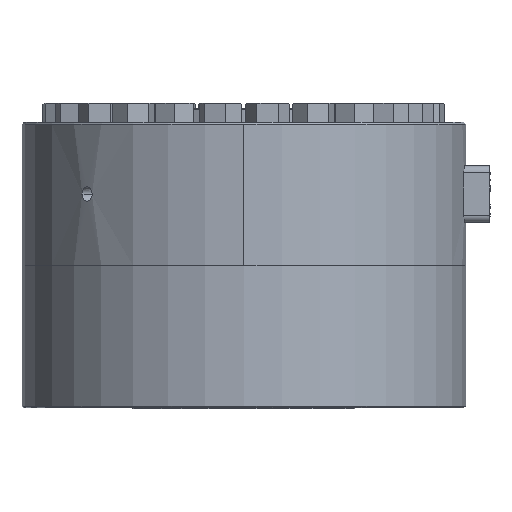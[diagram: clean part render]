
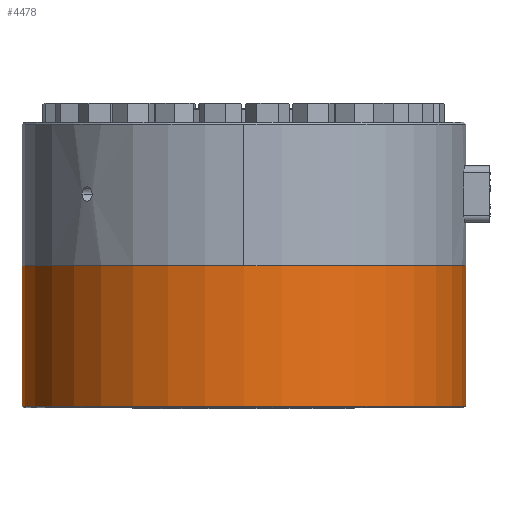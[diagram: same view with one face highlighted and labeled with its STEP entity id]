
A CAD part, front view. The second image highlights one B-rep face of the part: STEP entity #4478.
In plain terms, the highlighted cylindrical face has radius 196.85 mm (diameter 393.7 mm), a partial arc.
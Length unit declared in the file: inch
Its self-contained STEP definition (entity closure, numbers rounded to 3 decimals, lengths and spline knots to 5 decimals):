
#3 = ORIENTED_EDGE ( 'NONE', *, *, #17368, .F. ) ;
#17353 = FACE_OUTER_BOUND ( 'NONE', #4197, .T. ) ;
#990 = VERTEX_POINT ( 'NONE', #14817 ) ;
#17368 = EDGE_CURVE ( 'NONE', #990, #14374, #12063, .T. ) ;
#17369 = CYLINDRICAL_SURFACE ( 'NONE', #17370, 7.75 ) ;
#17370 = AXIS2_PLACEMENT_3D ( 'NONE', #17371, #17372, #17373 ) ;
#17371 = CARTESIAN_POINT ( 'NONE',  ( 0., 0., -5.001 ) ) ;
#17372 = DIRECTION ( 'NONE',  ( 0., 0., -1. ) ) ;
#17373 = DIRECTION ( 'NONE',  ( -1., 0., 0. ) ) ;
#1249 = EDGE_CURVE ( 'NONE', #2297, #990, #14967, .T. ) ;
#2149 = ORIENTED_EDGE ( 'NONE', *, *, #13879, .T. ) ;
#2297 = VERTEX_POINT ( 'NONE', #15720 ) ;
#2976 = ORIENTED_EDGE ( 'NONE', *, *, #3251, .T. ) ;
#3251 = EDGE_CURVE ( 'NONE', #10818, #11085, #16358, .T. ) ;
#3354 = LINE ( 'NONE', #3355, #3356 ) ;
#3355 = CARTESIAN_POINT ( 'NONE',  ( 7.75, 0., -5.001 ) ) ;
#3356 = VECTOR ( 'NONE', #3357, 39.37008 ) ;
#3357 = DIRECTION ( 'NONE',  ( 0., 0., -1. ) ) ;
#3583 = ORIENTED_EDGE ( 'NONE', *, *, #9780, .F. ) ;
#4071 = CARTESIAN_POINT ( 'NONE',  ( 7.75, 0., -5.001 ) ) ;
#4197 = EDGE_LOOP ( 'NONE', ( #3583, #2976, #2149, #3, #16216 ) ) ;
#4223 = CARTESIAN_POINT ( 'NONE',  ( -7.75, 0., -5.001 ) ) ;
#4478 = ADVANCED_FACE ( 'NONE', ( #17353 ), #17369, .T. ) ;
#9080 = LINE ( 'NONE', #9081, #9082 ) ;
#9081 = CARTESIAN_POINT ( 'NONE',  ( -7.75, 0., -5.001 ) ) ;
#9082 = VECTOR ( 'NONE', #9083, 39.37008 ) ;
#9083 = DIRECTION ( 'NONE',  ( 0., 0., -1. ) ) ;
#9766 = CARTESIAN_POINT ( 'NONE',  ( -7.75, 0., -9.91 ) ) ;
#9780 = EDGE_CURVE ( 'NONE', #10818, #2297, #3354, .T. ) ;
#10818 = VERTEX_POINT ( 'NONE', #4071 ) ;
#11085 = VERTEX_POINT ( 'NONE', #4223 ) ;
#12063 = CIRCLE ( 'NONE', #12074, 7.75 ) ;
#12074 = AXIS2_PLACEMENT_3D ( 'NONE', #12075, #12076, #12077 ) ;
#12075 = CARTESIAN_POINT ( 'NONE',  ( 0., 0., -9.91 ) ) ;
#12076 = DIRECTION ( 'NONE',  ( 0., 0., -1. ) ) ;
#12077 = DIRECTION ( 'NONE',  ( 0., -1., 0. ) ) ;
#13879 = EDGE_CURVE ( 'NONE', #11085, #14374, #9080, .T. ) ;
#14374 = VERTEX_POINT ( 'NONE', #9766 ) ;
#14817 = CARTESIAN_POINT ( 'NONE',  ( 0., -7.75, -9.91 ) ) ;
#14967 = CIRCLE ( 'NONE', #14968, 7.75 ) ;
#14968 = AXIS2_PLACEMENT_3D ( 'NONE', #14969, #14970, #14971 ) ;
#14969 = CARTESIAN_POINT ( 'NONE',  ( 0., 0., -9.91 ) ) ;
#14970 = DIRECTION ( 'NONE',  ( 0., 0., -1. ) ) ;
#14971 = DIRECTION ( 'NONE',  ( 0., -1., 0. ) ) ;
#15720 = CARTESIAN_POINT ( 'NONE',  ( 7.75, 0., -9.91 ) ) ;
#16216 = ORIENTED_EDGE ( 'NONE', *, *, #1249, .F. ) ;
#16358 = CIRCLE ( 'NONE', #16359, 7.75 ) ;
#16359 = AXIS2_PLACEMENT_3D ( 'NONE', #16360, #16361, #16362 ) ;
#16360 = CARTESIAN_POINT ( 'NONE',  ( 0., 0., -5.001 ) ) ;
#16361 = DIRECTION ( 'NONE',  ( 0., 0., -1. ) ) ;
#16362 = DIRECTION ( 'NONE',  ( -1., 0., 0. ) ) ;
